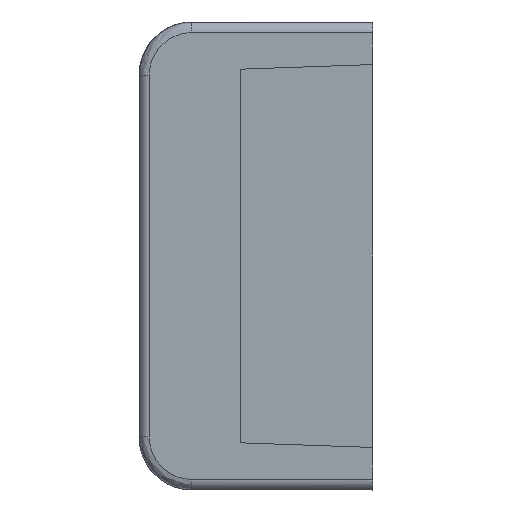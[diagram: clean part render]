
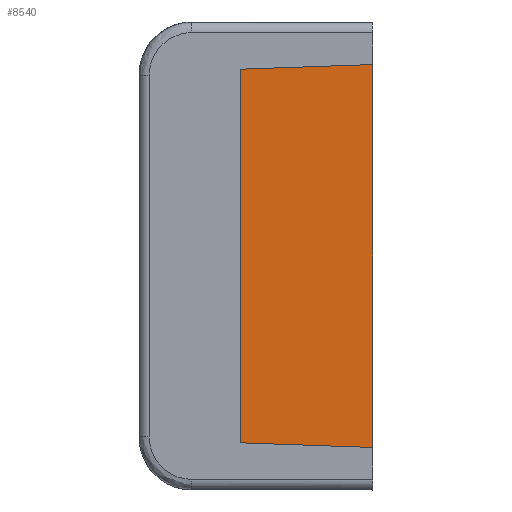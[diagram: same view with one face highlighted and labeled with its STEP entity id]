
A CAD part, left-side view. The second image highlights one B-rep face of the part: STEP entity #8540.
In plain terms, the highlighted planar face has unit normal (-0.999, 0.035, 0).
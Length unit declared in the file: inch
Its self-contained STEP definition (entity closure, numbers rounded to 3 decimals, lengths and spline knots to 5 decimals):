
#1=DIRECTION('',(0.035,0.999,0.035));
#2=VECTOR('',#1,0.2503);
#3=CARTESIAN_POINT('',(-1.455,0.,-0.36));
#4=LINE('',#3,#2);
#5=DIRECTION('',(0.,0.,1.));
#6=VECTOR('',#5,0.70254);
#7=CARTESIAN_POINT('',(-1.44627,0.25,-0.35127));
#8=LINE('',#7,#6);
#9=DIRECTION('',(-0.035,-0.999,0.035));
#10=VECTOR('',#9,0.2503);
#11=CARTESIAN_POINT('',(-1.44627,0.25,0.35127));
#12=LINE('',#11,#10);
#13=DIRECTION('',(0.,0.,-1.));
#14=VECTOR('',#13,0.72);
#15=CARTESIAN_POINT('',(-1.455,0.,0.36));
#16=LINE('',#15,#14);
#6861=CARTESIAN_POINT('',(-1.455,0.,-0.36));
#6862=CARTESIAN_POINT('',(-1.44627,0.25,-0.35127));
#6863=VERTEX_POINT('',#6861);
#6864=VERTEX_POINT('',#6862);
#6865=CARTESIAN_POINT('',(-1.44627,0.25,0.35127));
#6866=VERTEX_POINT('',#6865);
#6867=CARTESIAN_POINT('',(-1.455,0.,0.36));
#6868=VERTEX_POINT('',#6867);
#8525=CARTESIAN_POINT('',(-1.455,0.,0.39686));
#8526=DIRECTION('',(0.999,-0.035,0.));
#8527=DIRECTION('',(0.,0.,1.));
#8528=AXIS2_PLACEMENT_3D('',#8525,#8526,#8527);
#8529=PLANE('',#8528);
#8531=ORIENTED_EDGE('',*,*,#8530,.T.);
#8533=ORIENTED_EDGE('',*,*,#8532,.T.);
#8535=ORIENTED_EDGE('',*,*,#8534,.T.);
#8537=ORIENTED_EDGE('',*,*,#8536,.T.);
#8538=EDGE_LOOP('',(#8531,#8533,#8535,#8537));
#8539=FACE_OUTER_BOUND('',#8538,.F.);
#8540=ADVANCED_FACE('',(#8539),#8529,.F.);
#8530=EDGE_CURVE('',#6863,#6864,#4,.T.);
#8532=EDGE_CURVE('',#6864,#6866,#8,.T.);
#8534=EDGE_CURVE('',#6866,#6868,#12,.T.);
#8536=EDGE_CURVE('',#6868,#6863,#16,.T.);
